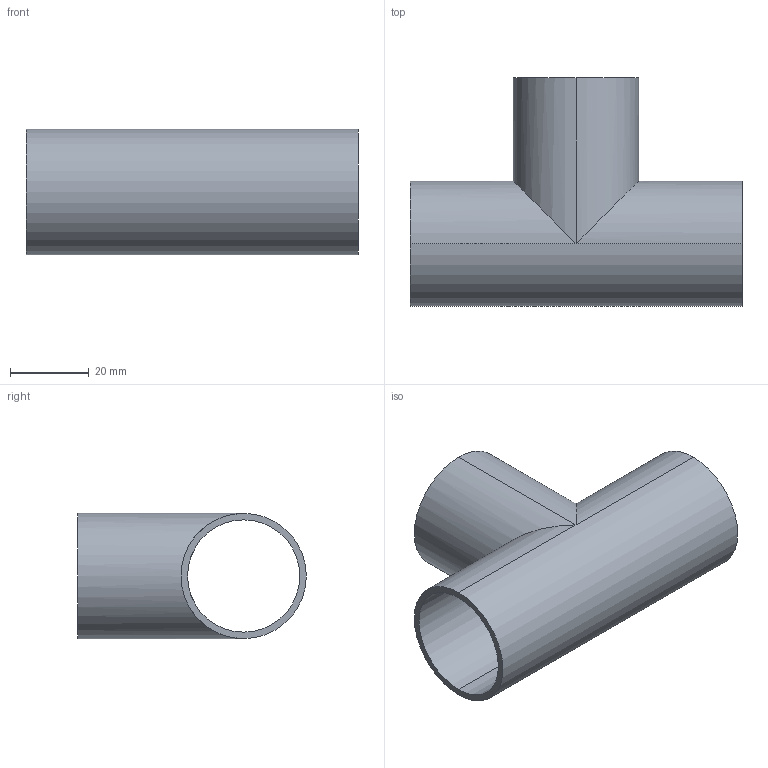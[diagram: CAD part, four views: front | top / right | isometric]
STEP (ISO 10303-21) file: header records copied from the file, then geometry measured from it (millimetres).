
FILE_DESCRIPTION (( 'STEP AP203' ), '1' );
FILE_NAME ('E7WWW1.25.STEP', '2018-05-01T19:45:59', ( 'vneprd' ), ( 'Microsoft' ), 'SwSTEP 2.0', 'SolidWorks 2014', '' );
FILE_SCHEMA (( 'CONFIG_CONTROL_DESIGN' ));
Length unit declared in the file: inch
Products named in the file (1): E7WWW1.25
Bounding box: 84.12 x 57.94 x 31.75 mm (x, y, z)
Volume: 17729.6 mm3; surface area: 21227.9 mm2
Topology: 1 solids, 1 shells, 14 faces, 32 edges, 20 vertices
Faces by surface type: cylinder 9, plane 5
Entity records: 487 total; most frequent: CARTESIAN_POINT 79, DIRECTION 74, ORIENTED_EDGE 64, EDGE_CURVE 32, AXIS2_PLACEMENT_3D 31, VERTEX_POINT 20, EDGE_LOOP 18, CIRCLE 16
